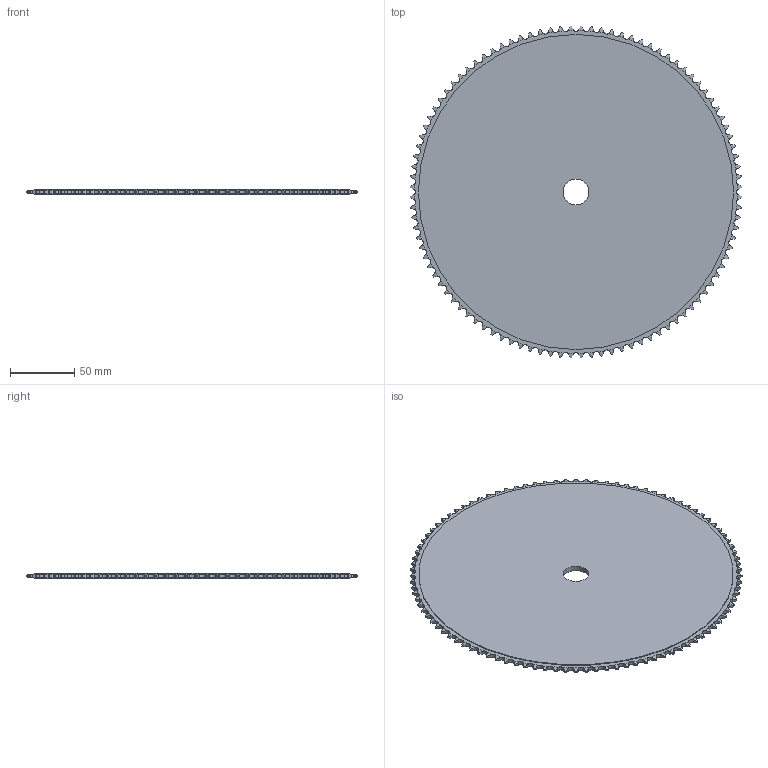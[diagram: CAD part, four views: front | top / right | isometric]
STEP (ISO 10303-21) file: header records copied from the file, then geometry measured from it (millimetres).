
FILE_DESCRIPTION((''),'2;1');
FILE_NAME('500-081-0100_PRT','2021-02-12T',('Brieden'),('Brieden'),'PRO/ENGINEER BY PARAMETRIC TECHNOLOGY CORPORATION, 2010160','PRO/ENGINEER BY PARAMETRIC TECHNOLOGY CORPORATION, 2010160','');
FILE_SCHEMA(('AUTOMOTIVE_DESIGN { 1 0 10303 214 1 1 1 1 }'));
Length unit declared in the file: millimetre
Products named in the file (1): 500-081-0100_PRT
Bounding box: 257.72 x 257.72 x 4 mm (x, y, z)
Volume: 195434 mm3; surface area: 103915.6 mm2
Topology: 1 solids, 1 shells, 610 faces, 1818 edges, 1212 vertices
Faces by surface type: cylinder 406, torus 200, plane 4
Entity records: 29216 total; most frequent: CARTESIAN_POINT 8277, ORIENTED_EDGE 3636, DIRECTION 2850, PRESENTATION_STYLE_ASSIGNMENT 1819, STYLED_ITEM 1819, CURVE_STYLE 1818, EDGE_CURVE 1818, AXIS2_PLACEMENT_3D 1222
